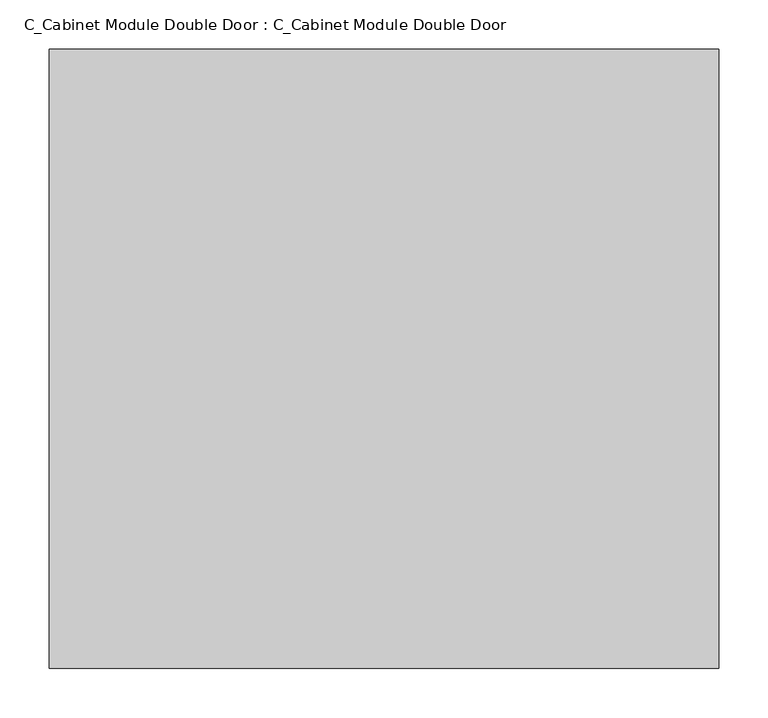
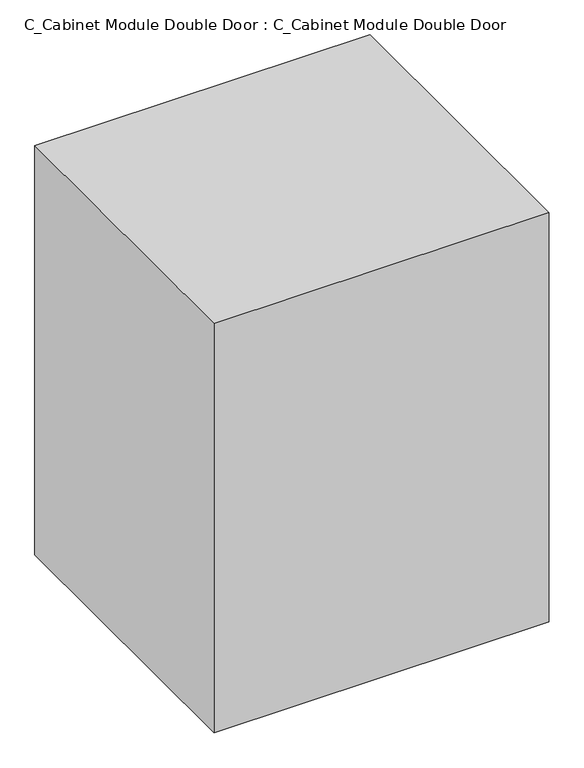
"""IFC4 building model written with IfcOpenShell, lengths in millimetres: furniture geometry, C_Cabinet Module Double Door : C_Cabinet Module Double Door."""

from ifc_helpers import new_model, si_unit, origin, origin_with_axes, place, context, project, spatial, polyline, outline, extrude, source, transform, mapped, element, save


def c_cabinet_module_double_door_c_cabinet_module_double_door_e15ac9e6(model_context):
    return source(origin(), model_context, "Body", "SweptSolid", [
        extrude(outline(polyline([(339.725, 0.0), (-339.725, 0.0), (-339.725, 628.65), (339.725, 628.65), (339.725, 0.0)])), origin_with_axes(), (0.0, 0.0, 1.0), 876.3),
    ])


if __name__ == "__main__":
    model = new_model("IFC4")
    model_context = context("Model", 3, world=origin())
    ifc_project = project(units=[si_unit("LENGTHUNIT", "METRE", prefix="MILLI")], contexts=[model_context])
    site = spatial("IfcSite", under=ifc_project)
    building = spatial("IfcBuilding", under=site)
    placement = place(None, origin())
    c_cabinet_module_double_door_c_cabinet_module_double_door_shape = c_cabinet_module_double_door_c_cabinet_module_double_door_e15ac9e6(model_context)
    element("IfcFurniture", 1, ObjectType="C_Cabinet Module Double Door : C_Cabinet Module Double Door", at=placement, inside=building, context=model_context, shape_type="MappedRepresentation", body=[
        mapped(c_cabinet_module_double_door_c_cabinet_module_double_door_shape, transform((0.0, 0.0, 0.0), x_axis=(1.0, 0.0, 0.0), y_axis=(0.0, 1.0, 0.0), z_axis=(0.0, 0.0, 1.0))),
    ])
    save(model, "model.ifc")
